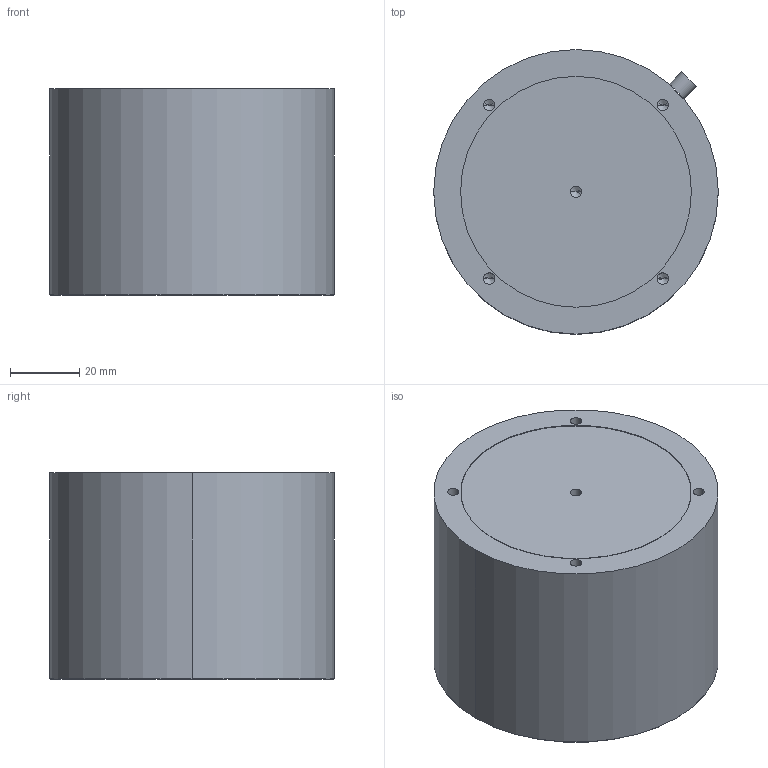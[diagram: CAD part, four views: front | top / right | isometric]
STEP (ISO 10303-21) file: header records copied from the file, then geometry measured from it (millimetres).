
FILE_DESCRIPTION (( 'STEP AP203' ), '1' );
FILE_NAME ('XD303-D1蚾饜极.STEP', '2020-05-12T08:26:31', ( 'User' ), ( 'china' ), 'SwSTEP 2.0', 'SolidWorks 2016', '' );
FILE_SCHEMA (( 'CONFIG_CONTROL_DESIGN' ));
Length unit declared in the file: millimetre
Products named in the file (1): XD303-D1蚾饜极
Bounding box: 82 x 82 x 59.5 mm (x, y, z)
Volume: 313139.5 mm3; surface area: 26665.7 mm2
Topology: 2 solids, 2 shells, 53 faces, 122 edges, 64 vertices
Faces by surface type: cylinder 26, cone 22, plane 5
Entity records: 1429 total; most frequent: DIRECTION 264, CARTESIAN_POINT 220, ORIENTED_EDGE 204, AXIS2_PLACEMENT_3D 108, EDGE_CURVE 102, EDGE_LOOP 64, VERTEX_POINT 64, CIRCLE 54
